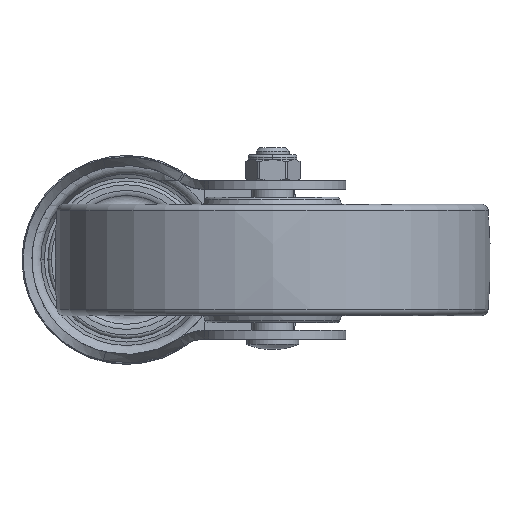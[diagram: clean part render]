
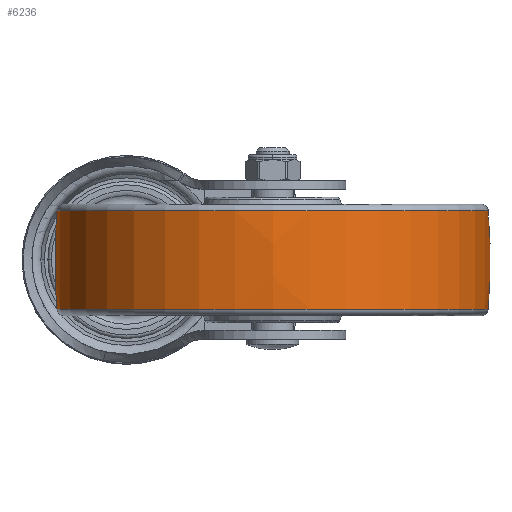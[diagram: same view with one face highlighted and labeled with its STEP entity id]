
A CAD part, front view. The second image highlights one B-rep face of the part: STEP entity #6236.
In plain terms, the highlighted free-form (B-spline) face has degree [3, 3] with [7, 4] control points.
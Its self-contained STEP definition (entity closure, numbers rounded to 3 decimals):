
#5648=CARTESIAN_POINT('',(-0.009,-107.5,
0.));
#5649=DIRECTION('',(0.,0.,1.));
#5650=DIRECTION('',(0.083,0.997,0.));
#5651=AXIS2_PLACEMENT_3D('',#5648,#5649,#5650);
#5653=CARTESIAN_POINT('',(-0.009,107.5,
0.));
#5654=DIRECTION('',(0.,0.,-1.));
#5655=DIRECTION('',(0.083,-0.997,0.));
#5656=AXIS2_PLACEMENT_3D('',#5653,#5654,#5655);
#5658=CARTESIAN_POINT('',(14.09,0.,0.));
#5659=DIRECTION('',(-1.,0.,0.));
#5660=DIRECTION('',(0.,1.,0.));
#5661=AXIS2_PLACEMENT_3D('',#5658,#5659,#5660);
#5683=CARTESIAN_POINT('',(-14.167,0.,0.));
#5684=DIRECTION('',(-1.,0.,0.));
#5685=DIRECTION('',(0.,1.,0.));
#5686=AXIS2_PLACEMENT_3D('',#5683,#5684,#5685);
#5827=CARTESIAN_POINT('',(14.09,61.915,0.));
#5829=VERTEX_POINT('',#5827);
#5830=CARTESIAN_POINT('',(-14.167,61.91,0.));
#5831=VERTEX_POINT('',#5830);
#5867=CARTESIAN_POINT('',(14.09,-61.915,
0.));
#5869=VERTEX_POINT('',#5867);
#5870=CARTESIAN_POINT('',(-14.167,-61.91,
0.));
#5871=VERTEX_POINT('',#5870);
#6198=CARTESIAN_POINT('',(-14.73,-61.74,
3.884));
#6199=CARTESIAN_POINT('',(-4.948,-62.588,
3.938));
#6200=CARTESIAN_POINT('',(4.871,-62.59,3.938));
#6201=CARTESIAN_POINT('',(14.654,-61.745,3.885));
#6202=CARTESIAN_POINT('',(-14.73,-64.13,
-34.11));
#6203=CARTESIAN_POINT('',(-4.948,-65.012,
-34.579));
#6204=CARTESIAN_POINT('',(4.871,-65.013,
-34.58));
#6205=CARTESIAN_POINT('',(14.654,-64.135,
-34.113));
#6206=CARTESIAN_POINT('',(-14.73,-38.07,
-61.862));
#6207=CARTESIAN_POINT('',(-4.948,-38.593,
-62.712));
#6208=CARTESIAN_POINT('',(4.871,-38.594,
-62.714));
#6209=CARTESIAN_POINT('',(14.654,-38.073,
-61.867));
#6210=CARTESIAN_POINT('',(-14.73,0.,
-61.862));
#6211=CARTESIAN_POINT('',(-4.948,0.,
-62.712));
#6212=CARTESIAN_POINT('',(4.871,0.,
-62.714));
#6213=CARTESIAN_POINT('',(14.654,0.,
-61.867));
#6214=CARTESIAN_POINT('',(-14.73,38.07,
-61.862));
#6215=CARTESIAN_POINT('',(-4.948,38.593,
-62.712));
#6216=CARTESIAN_POINT('',(4.871,38.594,-62.714));
#6217=CARTESIAN_POINT('',(14.654,38.073,-61.867));
#6218=CARTESIAN_POINT('',(-14.73,64.13,
-34.11));
#6219=CARTESIAN_POINT('',(-4.948,65.012,
-34.579));
#6220=CARTESIAN_POINT('',(4.871,65.013,-34.58));
#6221=CARTESIAN_POINT('',(14.654,64.135,-34.113));
#6222=CARTESIAN_POINT('',(-14.73,61.74,3.884));
#6223=CARTESIAN_POINT('',(-4.948,62.588,3.938));
#6224=CARTESIAN_POINT('',(4.871,62.59,3.938));
#6225=CARTESIAN_POINT('',(14.654,61.745,3.885));
#6226=(BOUNDED_SURFACE()B_SPLINE_SURFACE(3,3,((#6198,#6199,#6200,#6201),(#6202,
#6203,#6204,#6205),(#6206,#6207,#6208,#6209),(#6210,#6211,#6212,#6213),(#6214,
#6215,#6216,#6217),(#6218,#6219,#6220,#6221),(#6222,#6223,#6224,#6225)),
.UNSPECIFIED.,.F.,.F.,.F.)B_SPLINE_SURFACE_WITH_KNOTS((4,3,4),(4,4),(0.,1.,
2.),(0.,1.),.UNSPECIFIED.)GEOMETRIC_REPRESENTATION_ITEM()RATIONAL_B_SPLINE_SURFACE(((1.189,1.187,1.187,1.189),(
0.939,0.937,0.937,0.939),(
0.939,0.937,0.937,0.939),(
1.189,1.187,1.187,1.189),(
0.939,0.937,0.937,0.939),(
0.939,0.937,0.937,0.939),(
1.189,1.187,1.187,1.189)))REPRESENTATION_ITEM('')SURFACE());
#6228=ORIENTED_EDGE('',*,*,#6227,.T.);
#6230=ORIENTED_EDGE('',*,*,#6229,.T.);
#6232=ORIENTED_EDGE('',*,*,#6231,.F.);
#6233=ORIENTED_EDGE('',*,*,#6191,.F.);
#6234=EDGE_LOOP('',(#6228,#6230,#6232,#6233));
#6235=FACE_OUTER_BOUND('',#6234,.F.);
#5652=CIRCLE('',#5651,170.);
#5657=CIRCLE('',#5656,170.);
#5662=CIRCLE('',#5661,61.915);
#5687=CIRCLE('',#5686,61.91);
#6191=EDGE_CURVE('',#5829,#5869,#5662,.T.);
#6227=EDGE_CURVE('',#5829,#5831,#5652,.T.);
#6229=EDGE_CURVE('',#5831,#5871,#5687,.T.);
#6231=EDGE_CURVE('',#5869,#5871,#5657,.T.);
#6236=ADVANCED_FACE('',(#6235),#6226,.T.);
